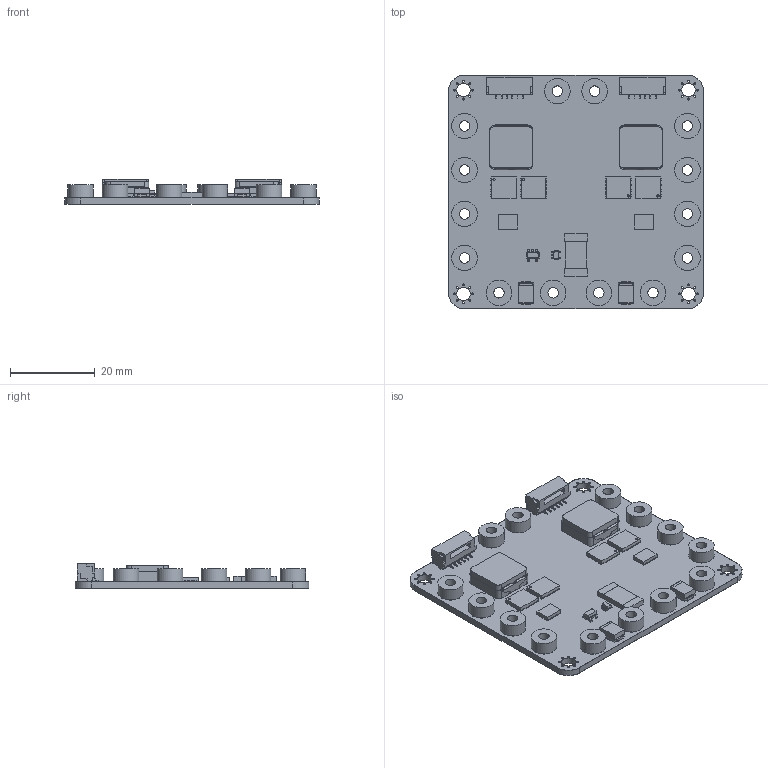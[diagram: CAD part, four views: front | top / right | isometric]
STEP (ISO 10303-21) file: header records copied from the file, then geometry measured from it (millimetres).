
FILE_DESCRIPTION(/* description */ ('KiCad electronic assembly'),/* implementation_level */ '2;1');
FILE_NAME(/* name */ 'edison-3d-model.step',/* time_stamp */ '2025-11-07T16:12:53+02:00',/* author */ (''),/* organization */ (''),/* preprocessor_version */ 'ST-DEVELOPER v20.1',/* originating_system */ 'Autodesk Translation Framework v14.17.0.0',/* authorisation */ '');
FILE_SCHEMA (('AUTOMOTIVE_DESIGN { 1 0 10303 214 3 1 1 }'));
Length unit declared in the file: millimetre
Products named in the file (38): 2025-11-07-14-11-42-215; 2025-11-07-14-11-42-221; 2025-11-07-14-11-42-222; 2025-11-07-14-11-42-223; 2025-11-07-14-11-42-224; 2025-11-07-14-11-42-225; 2025-11-07-14-11-42-226; 2025-11-07-14-11-42-252; 2025-11-07-14-11-42-253; 2025-11-07-14-11-42-216; 2025-11-07-14-11-42-217; 2025-11-07-14-11-42-218; 2025-11-07-14-11-42-219; 2025-11-07-14-11-42-227; 2025-11-07-14-11-42-228; 2025-11-07-14-11-42-229; 2025-11-07-14-11-42-230; 2025-11-07-14-11-42-231; 2025-11-07-14-11-42-232; 2025-11-07-14-11-42-233; 2025-11-07-14-11-42-234; 2025-11-07-14-11-42-236; 2025-11-07-14-11-42-237; 2025-11-07-14-11-42-238; 2025-11-07-14-11-42-239; 2025-11-07-14-11-42-240; 2025-11-07-14-11-42-241; 2025-11-07-14-11-42-242; 2025-11-07-14-11-42-243; 2025-11-07-14-11-42-244; 2025-11-07-14-11-42-245; 2025-11-07-14-11-42-246; 2025-11-07-14-11-42-247; 2025-11-07-14-11-42-248; 2025-11-07-14-11-42-249; 2025-11-07-14-11-42-250; 2025-11-07-14-11-42-251; 2025-11-07-14-11-42-220
Assembly tree (57 placements, depth 4):
  2025-11-07-14-11-42-215
    2025-11-07-14-11-42-216  x2
    2025-11-07-14-11-42-217  x4
    2025-11-07-14-11-42-218  x2
    2025-11-07-14-11-42-219  x2
    2025-11-07-14-11-42-220  x14
    2025-11-07-14-11-42-221
    2025-11-07-14-11-42-222
      2025-11-07-14-11-42-223
      2025-11-07-14-11-42-224
      2025-11-07-14-11-42-225
    2025-11-07-14-11-42-226
    2025-11-07-14-11-42-227  x2
      2025-11-07-14-11-42-228
      2025-11-07-14-11-42-229
        2025-11-07-14-11-42-230
        2025-11-07-14-11-42-231
        2025-11-07-14-11-42-232
        2025-11-07-14-11-42-233
        2025-11-07-14-11-42-234
        2025-11-07-14-11-42-236
        2025-11-07-14-11-42-237
        2025-11-07-14-11-42-238
        2025-11-07-14-11-42-239
        2025-11-07-14-11-42-240
        2025-11-07-14-11-42-241
        2025-11-07-14-11-42-242
        2025-11-07-14-11-42-243
        2025-11-07-14-11-42-244
        2025-11-07-14-11-42-245
        2025-11-07-14-11-42-246
        2025-11-07-14-11-42-247
        2025-11-07-14-11-42-248
        2025-11-07-14-11-42-249
        2025-11-07-14-11-42-250
        2025-11-07-14-11-42-251
    2025-11-07-14-11-42-252
    2025-11-07-14-11-42-253
Bounding box: 60 x 55 x 5.89 mm (x, y, z)
Volume: 7043.9 mm3; surface area: 17643.2 mm2
Topology: 74 solids, 76 shells, 2193 faces, 6113 edges, 4118 vertices
Faces by surface type: plane 1803, cylinder 380, bspline 10
Full cylindrical faces by diameter (mm): 0.4 x112, 0.5 x36, 2.459 x14, 3.2 x4, 4.2 x14, 4.3 x14, 6 x14
Entity records: 43248 total; most frequent: CARTESIAN_POINT 7359, DIRECTION 6944, ORIENTED_EDGE 6692, EDGE_CURVE 3524, LINE 2632, VECTOR 2632, VERTEX_POINT 2426, AXIS2_PLACEMENT_3D 2156
